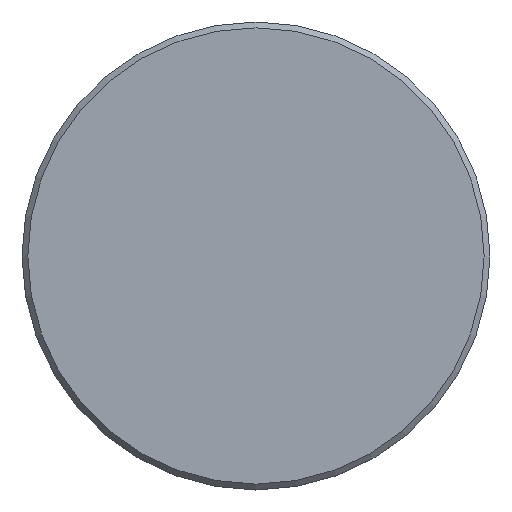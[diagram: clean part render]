
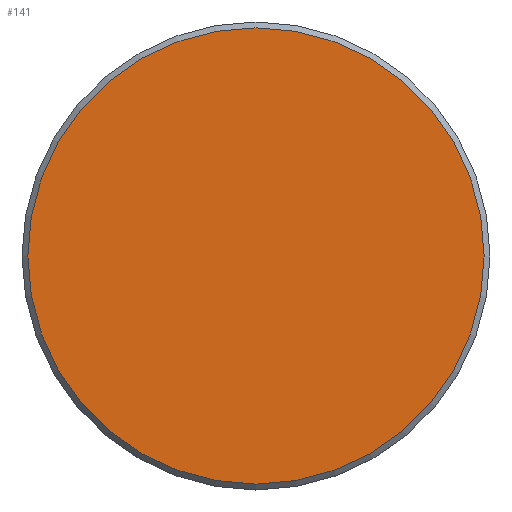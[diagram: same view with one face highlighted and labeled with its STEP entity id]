
A CAD part, top view. The second image highlights one B-rep face of the part: STEP entity #141.
In plain terms, the highlighted planar face has unit normal (0, 0, 1).
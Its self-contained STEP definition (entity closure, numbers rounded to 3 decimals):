
#12 = CARTESIAN_POINT ( 'NONE',  ( 19.5, 0., 0. ) ) ;
#52 = DIRECTION ( 'NONE',  ( -1., 0., 0. ) ) ;
#53 = AXIS2_PLACEMENT_3D ( 'NONE', #192, #197, #102 ) ;
#58 = EDGE_LOOP ( 'NONE', ( #86 ) ) ;
#64 = FACE_OUTER_BOUND ( 'NONE', #58, .T. ) ;
#81 = PLANE ( 'NONE',  #146 ) ;
#84 = DIRECTION ( 'NONE',  ( 0., 0., -1. ) ) ;
#86 = ORIENTED_EDGE ( 'NONE', *, *, #183, .T. ) ;
#102 = DIRECTION ( 'NONE',  ( 1., 0., 0. ) ) ;
#141 = ADVANCED_FACE ( 'NONE', ( #64 ), #81, .F. ) ;
#146 = AXIS2_PLACEMENT_3D ( 'NONE', #153, #84, #52 ) ;
#152 = VERTEX_POINT ( 'NONE', #12 ) ;
#153 = CARTESIAN_POINT ( 'NONE',  ( 0., 0., 0. ) ) ;
#177 = CIRCLE ( 'NONE', #53, 19.5 ) ;
#183 = EDGE_CURVE ( 'NONE', #152, #152, #177, .T. ) ;
#192 = CARTESIAN_POINT ( 'NONE',  ( 0., 0., 0. ) ) ;
#197 = DIRECTION ( 'NONE',  ( 0., 0., 1. ) ) ;
